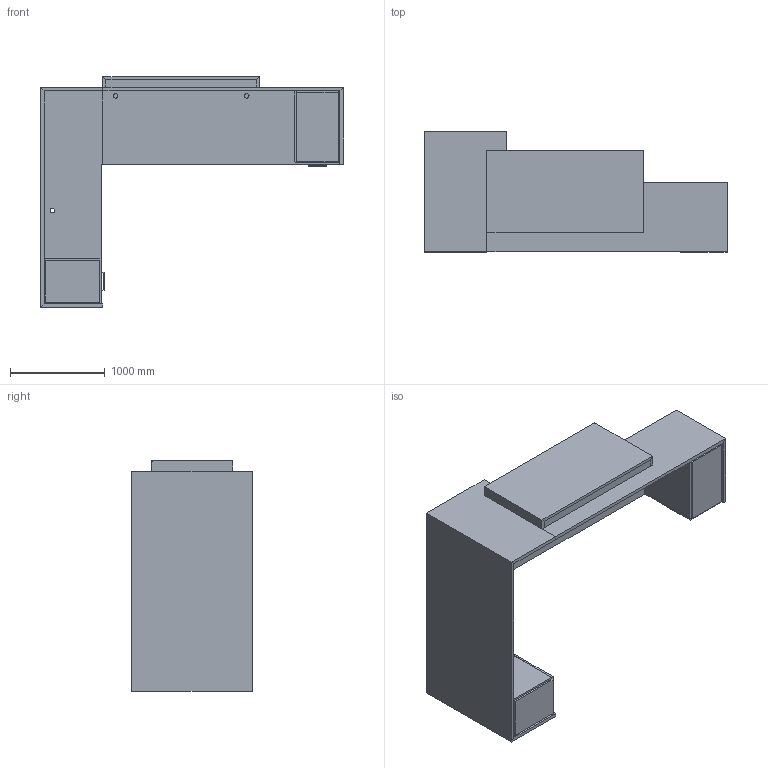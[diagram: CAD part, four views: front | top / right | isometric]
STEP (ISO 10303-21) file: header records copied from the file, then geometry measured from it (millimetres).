
FILE_DESCRIPTION(/* description */ ('','CAx-IF Rec.Pracs.---Representation and Presentation of Product Manufacturing Information (PMI)---4.0---2014-10-13'),/* implementation_level */ '2;1');
FILE_NAME(/* name */ 'RECEPTION_SALUTE 5.stp',/* time_stamp */ '2024-12-07T19:02:08-05:00',/* author */ ('mbowman'),/* organization */ (''),/* preprocessor_version */ 'ST-DEVELOPER v19.2',/* originating_system */ 'Autodesk Inventor 2023',/* authorisation */ '');
FILE_SCHEMA (('AP242_MANAGED_MODEL_BASED_3D_ENGINEERING_MIM_LF { 1 0 10303 442 1 1 4 }'));
Length unit declared in the file: inch
Products named in the file (4): SALUTE^ADMIN 5A_65in TRANS 100 in DESK-SOLID ASSEMBLY; SALUTE^ADMIN 5_L SHAPED-SOLID ASSEMBLY; SALUTE^ADMIN 5_34x65 STRAIGHT TRANS-PARTS SOLID; HAFELE 102.12.004-7_5 INCH
Assembly tree (7 placements, depth 2):
  SALUTE^ADMIN 5A_65in TRANS 100 in DESK-SOLID ASSEMBLY
    SALUTE^ADMIN 5_L SHAPED-SOLID ASSEMBLY
    SALUTE^ADMIN 5_34x65 STRAIGHT TRANS-PARTS SOLID
    HAFELE 102.12.004-7_5 INCH  x5
Bounding box: 3200.4 x 1270 x 2438.4 mm (x, y, z)
Volume: 562948980.9 mm3; surface area: 37484955.5 mm2
Topology: 33 solids, 33 shells, 229 faces, 489 edges, 326 vertices
Faces by surface type: plane 226, cylinder 3
Full cylindrical faces by diameter (mm): 48.26 x3
Entity records: 6170 total; most frequent: CARTESIAN_POINT 1295, DIRECTION 825, ORIENTED_EDGE 786, EDGE_CURVE 393, LINE 387, VECTOR 387, STYLED_ITEM 291, VERTEX_POINT 262
